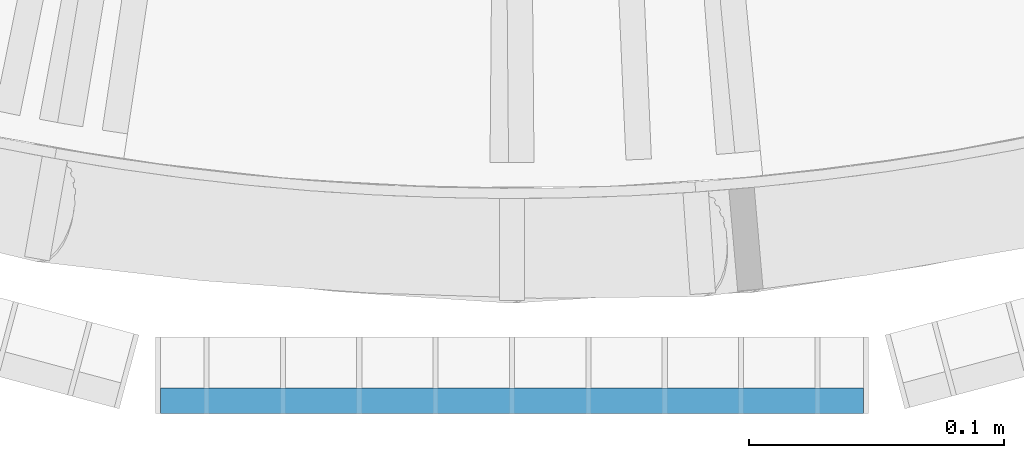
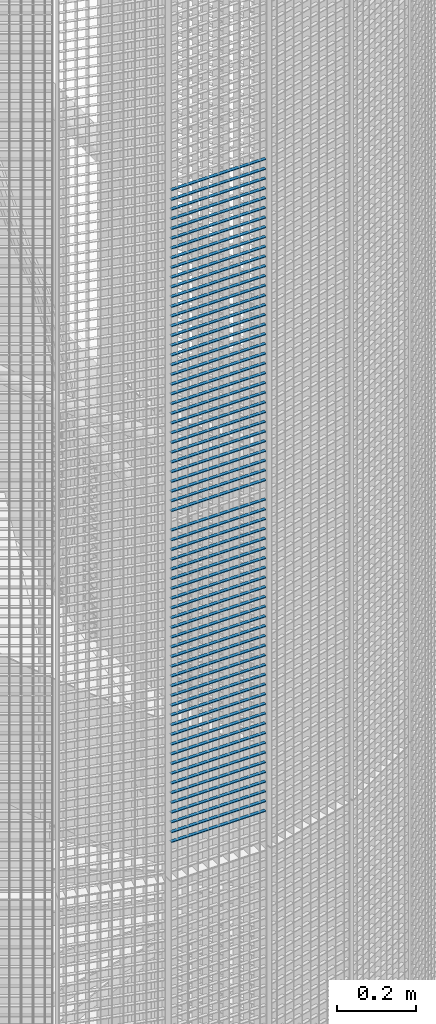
# One storey, part 391 of 1183: 67 beams, 1 element without a shape of its own.
"""IFC2X3 building model written with IfcOpenShell, lengths in millimetres."""

from ifc_helpers import new_model, si_unit, frame, origin_with_axes, origin_2d_with_axis, place, context, subcontext, project, spatial, rectangle, extrude, material, type_object, element, aggregate, save


model = new_model("IFC2X3")

# Units and contexts
model_context = context("Model", 3, precision=1e-05, world=origin_with_axes())
body_context = subcontext(model_context, "Body", "Model", "MODEL_VIEW")
ifc_project = project(units=[si_unit("LENGTHUNIT", "METRE", prefix="MILLI"), si_unit("AREAUNIT", "SQUARE_METRE"), si_unit("VOLUMEUNIT", "CUBIC_METRE"), si_unit("MASSUNIT", "GRAM", prefix="KILO"), si_unit("TIMEUNIT", "SECOND"), si_unit("PLANEANGLEUNIT", "RADIAN"), si_unit("SOLIDANGLEUNIT", "STERADIAN"), si_unit("THERMODYNAMICTEMPERATUREUNIT", "DEGREE_CELSIUS"), si_unit("LUMINOUSINTENSITYUNIT", "LUMEN")], contexts=[model_context])

# Site, building, storey
site_placement = place(None, origin_with_axes())
site = spatial("IfcSite", under=ifc_project, at=site_placement, Name="Undefined", CompositionType="ELEMENT")
building_placement = place(site_placement, origin_with_axes())
building = spatial("IfcBuilding", under=site, at=building_placement, Name="Undefined", CompositionType="ELEMENT")
storey_placement = place(building_placement, origin_with_axes())
storey = spatial("IfcBuildingStorey", under=building, at=storey_placement, Name="Undefined", CompositionType="ELEMENT", Elevation=0.0)

# Assembly, beams
assembly_placement = place(storey_placement, origin_with_axes())
assembly = element("IfcElementAssembly", 1, at=assembly_placement, inside=storey, Name="BORDURE", AssemblyPlace="NOTDEFINED", PredefinedType="NOTDEFINED")
ifc_material = material(Name="STEEL/S235JR")
beam_type = type_object("IfcBeamType", Name="PL2*10", PredefinedType="NOTDEFINED")
beam_1_placement = place(assembly_placement, frame((21737.9960033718, -1113.47999999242, 17130.0), z_axis=(0.0, -1.0, 0.0), x_axis=(-1.0, 0.0, 0.0)))
beam_1 = element("IfcBeam", 2, at=beam_1_placement, type_object=beam_type, material=ifc_material, Name="ENTRETOISE", context=body_context, shape_type="SweptSolid", body=[
    extrude(rectangle(XDim=2.0, YDim=10.0, at=origin_2d_with_axis()), frame((275.999999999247, 9.09494701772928e-13, 1.53210777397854e-14), z_axis=(-1.0, 0.0, 0.0), x_axis=(0.0, -1.0, 0.0)), (0.0, 0.0, 1.0), 276.0),
])
beam_2_placement = place(assembly_placement, frame((21737.9960033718, -1113.47999999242, 17100.0), z_axis=(0.0, -1.0, 0.0), x_axis=(-1.0, 0.0, 0.0)))
beam_2 = element("IfcBeam", 3, at=beam_2_placement, type_object=beam_type, material=ifc_material, Name="ENTRETOISE", context=body_context, shape_type="SweptSolid", body=[
    extrude(rectangle(XDim=2.0, YDim=10.0, at=origin_2d_with_axis()), frame((275.999999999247, 9.09494701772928e-13, 1.53210777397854e-14), z_axis=(-1.0, 0.0, 0.0), x_axis=(0.0, -1.0, 0.0)), (0.0, 0.0, 1.0), 276.0),
])
beam_3_placement = place(assembly_placement, frame((21737.9960033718, -1113.47999999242, 17070.0), z_axis=(0.0, -1.0, 0.0), x_axis=(-1.0, 0.0, 0.0)))
beam_3 = element("IfcBeam", 4, at=beam_3_placement, type_object=beam_type, material=ifc_material, Name="ENTRETOISE", context=body_context, shape_type="SweptSolid", body=[
    extrude(rectangle(XDim=2.0, YDim=10.0, at=origin_2d_with_axis()), frame((275.999999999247, 9.09494701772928e-13, 1.53210777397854e-14), z_axis=(-1.0, 0.0, 0.0), x_axis=(0.0, -1.0, 0.0)), (0.0, 0.0, 1.0), 276.0),
])
beam_4_placement = place(assembly_placement, frame((21737.9960033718, -1113.47999999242, 17040.0), z_axis=(0.0, -1.0, 0.0), x_axis=(-1.0, 0.0, 0.0)))
beam_4 = element("IfcBeam", 5, at=beam_4_placement, type_object=beam_type, material=ifc_material, Name="ENTRETOISE", context=body_context, shape_type="SweptSolid", body=[
    extrude(rectangle(XDim=2.0, YDim=10.0, at=origin_2d_with_axis()), frame((275.999999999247, 9.09494701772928e-13, 1.53210777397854e-14), z_axis=(-1.0, 0.0, 0.0), x_axis=(0.0, -1.0, 0.0)), (0.0, 0.0, 1.0), 276.0),
])
beam_5_placement = place(assembly_placement, frame((21737.9960033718, -1113.47999999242, 17010.0), z_axis=(0.0, -1.0, 0.0), x_axis=(-1.0, 0.0, 0.0)))
beam_5 = element("IfcBeam", 6, at=beam_5_placement, type_object=beam_type, material=ifc_material, Name="ENTRETOISE", context=body_context, shape_type="SweptSolid", body=[
    extrude(rectangle(XDim=2.0, YDim=10.0, at=origin_2d_with_axis()), frame((275.999999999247, 9.09494701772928e-13, 1.53210777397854e-14), z_axis=(-1.0, 0.0, 0.0), x_axis=(0.0, -1.0, 0.0)), (0.0, 0.0, 1.0), 276.0),
])
beam_6_placement = place(assembly_placement, frame((21737.9960033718, -1113.47999999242, 16980.0), z_axis=(0.0, -1.0, 0.0), x_axis=(-1.0, 0.0, 0.0)))
beam_6 = element("IfcBeam", 7, at=beam_6_placement, type_object=beam_type, material=ifc_material, Name="ENTRETOISE", context=body_context, shape_type="SweptSolid", body=[
    extrude(rectangle(XDim=2.0, YDim=10.0, at=origin_2d_with_axis()), frame((275.999999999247, 9.09494701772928e-13, 1.53210777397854e-14), z_axis=(-1.0, 0.0, 0.0), x_axis=(0.0, -1.0, 0.0)), (0.0, 0.0, 1.0), 276.0),
])
beam_7_placement = place(assembly_placement, frame((21737.9960033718, -1113.47999999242, 16950.0), z_axis=(0.0, -1.0, 0.0), x_axis=(-1.0, 0.0, 0.0)))
beam_7 = element("IfcBeam", 8, at=beam_7_placement, type_object=beam_type, material=ifc_material, Name="ENTRETOISE", context=body_context, shape_type="SweptSolid", body=[
    extrude(rectangle(XDim=2.0, YDim=10.0, at=origin_2d_with_axis()), frame((275.999999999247, 9.09494701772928e-13, 1.53210777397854e-14), z_axis=(-1.0, 0.0, 0.0), x_axis=(0.0, -1.0, 0.0)), (0.0, 0.0, 1.0), 276.0),
])
beam_8_placement = place(assembly_placement, frame((21737.9960033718, -1113.47999999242, 16920.0), z_axis=(0.0, -1.0, 0.0), x_axis=(-1.0, 0.0, 0.0)))
beam_8 = element("IfcBeam", 9, at=beam_8_placement, type_object=beam_type, material=ifc_material, Name="ENTRETOISE", context=body_context, shape_type="SweptSolid", body=[
    extrude(rectangle(XDim=2.0, YDim=10.0, at=origin_2d_with_axis()), frame((275.999999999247, 9.09494701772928e-13, 1.53210777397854e-14), z_axis=(-1.0, 0.0, 0.0), x_axis=(0.0, -1.0, 0.0)), (0.0, 0.0, 1.0), 276.0),
])
beam_9_placement = place(assembly_placement, frame((21737.9960033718, -1113.47999999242, 16890.0), z_axis=(0.0, -1.0, 0.0), x_axis=(-1.0, 0.0, 0.0)))
beam_9 = element("IfcBeam", 10, at=beam_9_placement, type_object=beam_type, material=ifc_material, Name="ENTRETOISE", context=body_context, shape_type="SweptSolid", body=[
    extrude(rectangle(XDim=2.0, YDim=10.0, at=origin_2d_with_axis()), frame((275.999999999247, 9.09494701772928e-13, 1.53210777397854e-14), z_axis=(-1.0, 0.0, 0.0), x_axis=(0.0, -1.0, 0.0)), (0.0, 0.0, 1.0), 276.0),
])
beam_10_placement = place(assembly_placement, frame((21737.9960033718, -1113.47999999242, 16860.0), z_axis=(0.0, -1.0, 0.0), x_axis=(-1.0, 0.0, 0.0)))
beam_10 = element("IfcBeam", 11, at=beam_10_placement, type_object=beam_type, material=ifc_material, Name="ENTRETOISE", context=body_context, shape_type="SweptSolid", body=[
    extrude(rectangle(XDim=2.0, YDim=10.0, at=origin_2d_with_axis()), frame((275.999999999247, 9.09494701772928e-13, 1.53210777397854e-14), z_axis=(-1.0, 0.0, 0.0), x_axis=(0.0, -1.0, 0.0)), (0.0, 0.0, 1.0), 276.0),
])
beam_11_placement = place(assembly_placement, frame((21737.9960033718, -1113.47999999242, 16830.0), z_axis=(0.0, -1.0, 0.0), x_axis=(-1.0, 0.0, 0.0)))
beam_11 = element("IfcBeam", 12, at=beam_11_placement, type_object=beam_type, material=ifc_material, Name="ENTRETOISE", context=body_context, shape_type="SweptSolid", body=[
    extrude(rectangle(XDim=2.0, YDim=10.0, at=origin_2d_with_axis()), frame((275.999999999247, 9.09494701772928e-13, 1.53210777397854e-14), z_axis=(-1.0, 0.0, 0.0), x_axis=(0.0, -1.0, 0.0)), (0.0, 0.0, 1.0), 276.0),
])
beam_12_placement = place(assembly_placement, frame((21737.9960033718, -1113.47999999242, 16800.0), z_axis=(0.0, -1.0, 0.0), x_axis=(-1.0, 0.0, 0.0)))
beam_12 = element("IfcBeam", 13, at=beam_12_placement, type_object=beam_type, material=ifc_material, Name="ENTRETOISE", context=body_context, shape_type="SweptSolid", body=[
    extrude(rectangle(XDim=2.0, YDim=10.0, at=origin_2d_with_axis()), frame((275.999999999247, 9.09494701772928e-13, 1.53210777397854e-14), z_axis=(-1.0, 0.0, 0.0), x_axis=(0.0, -1.0, 0.0)), (0.0, 0.0, 1.0), 276.0),
])
beam_13_placement = place(assembly_placement, frame((21737.9960033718, -1113.47999999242, 16770.0), z_axis=(0.0, -1.0, 0.0), x_axis=(-1.0, 0.0, 0.0)))
beam_13 = element("IfcBeam", 14, at=beam_13_placement, type_object=beam_type, material=ifc_material, Name="ENTRETOISE", context=body_context, shape_type="SweptSolid", body=[
    extrude(rectangle(XDim=2.0, YDim=10.0, at=origin_2d_with_axis()), frame((275.999999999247, 9.09494701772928e-13, 1.53210777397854e-14), z_axis=(-1.0, 0.0, 0.0), x_axis=(0.0, -1.0, 0.0)), (0.0, 0.0, 1.0), 276.0),
])
beam_14_placement = place(assembly_placement, frame((21737.9960033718, -1113.47999999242, 16740.0), z_axis=(0.0, -1.0, 0.0), x_axis=(-1.0, 0.0, 0.0)))
beam_14 = element("IfcBeam", 15, at=beam_14_placement, type_object=beam_type, material=ifc_material, Name="ENTRETOISE", context=body_context, shape_type="SweptSolid", body=[
    extrude(rectangle(XDim=2.0, YDim=10.0, at=origin_2d_with_axis()), frame((275.999999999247, 9.09494701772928e-13, 1.53210777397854e-14), z_axis=(-1.0, 0.0, 0.0), x_axis=(0.0, -1.0, 0.0)), (0.0, 0.0, 1.0), 276.0),
])
beam_15_placement = place(assembly_placement, frame((21737.9960033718, -1113.47999999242, 16710.0), z_axis=(0.0, -1.0, 0.0), x_axis=(-1.0, 0.0, 0.0)))
beam_15 = element("IfcBeam", 16, at=beam_15_placement, type_object=beam_type, material=ifc_material, Name="ENTRETOISE", context=body_context, shape_type="SweptSolid", body=[
    extrude(rectangle(XDim=2.0, YDim=10.0, at=origin_2d_with_axis()), frame((275.999999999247, 9.09494701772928e-13, 1.53210777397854e-14), z_axis=(-1.0, 0.0, 0.0), x_axis=(0.0, -1.0, 0.0)), (0.0, 0.0, 1.0), 276.0),
])
beam_16_placement = place(assembly_placement, frame((21737.9960033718, -1113.47999999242, 16680.0), z_axis=(0.0, -1.0, 0.0), x_axis=(-1.0, 0.0, 0.0)))
beam_16 = element("IfcBeam", 17, at=beam_16_placement, type_object=beam_type, material=ifc_material, Name="ENTRETOISE", context=body_context, shape_type="SweptSolid", body=[
    extrude(rectangle(XDim=2.0, YDim=10.0, at=origin_2d_with_axis()), frame((275.999999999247, 9.09494701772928e-13, 1.53210777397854e-14), z_axis=(-1.0, 0.0, 0.0), x_axis=(0.0, -1.0, 0.0)), (0.0, 0.0, 1.0), 276.0),
])
beam_17_placement = place(assembly_placement, frame((21737.9960033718, -1113.47999999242, 16650.0), z_axis=(0.0, -1.0, 0.0), x_axis=(-1.0, 0.0, 0.0)))
beam_17 = element("IfcBeam", 18, at=beam_17_placement, type_object=beam_type, material=ifc_material, Name="ENTRETOISE", context=body_context, shape_type="SweptSolid", body=[
    extrude(rectangle(XDim=2.0, YDim=10.0, at=origin_2d_with_axis()), frame((275.999999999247, 9.09494701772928e-13, 1.53210777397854e-14), z_axis=(-1.0, 0.0, 0.0), x_axis=(0.0, -1.0, 0.0)), (0.0, 0.0, 1.0), 276.0),
])
beam_18_placement = place(assembly_placement, frame((21737.9960033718, -1113.47999999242, 16620.0), z_axis=(0.0, -1.0, 0.0), x_axis=(-1.0, 0.0, 0.0)))
beam_18 = element("IfcBeam", 19, at=beam_18_placement, type_object=beam_type, material=ifc_material, Name="ENTRETOISE", context=body_context, shape_type="SweptSolid", body=[
    extrude(rectangle(XDim=2.0, YDim=10.0, at=origin_2d_with_axis()), frame((275.999999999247, 9.09494701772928e-13, 1.53210777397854e-14), z_axis=(-1.0, 0.0, 0.0), x_axis=(0.0, -1.0, 0.0)), (0.0, 0.0, 1.0), 276.0),
])
beam_19_placement = place(assembly_placement, frame((21737.9960033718, -1113.47999999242, 16590.0), z_axis=(0.0, -1.0, 0.0), x_axis=(-1.0, 0.0, 0.0)))
beam_19 = element("IfcBeam", 20, at=beam_19_placement, type_object=beam_type, material=ifc_material, Name="ENTRETOISE", context=body_context, shape_type="SweptSolid", body=[
    extrude(rectangle(XDim=2.0, YDim=10.0, at=origin_2d_with_axis()), frame((275.999999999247, 9.09494701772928e-13, 1.53210777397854e-14), z_axis=(-1.0, 0.0, 0.0), x_axis=(0.0, -1.0, 0.0)), (0.0, 0.0, 1.0), 276.0),
])
beam_20_placement = place(assembly_placement, frame((21737.9960033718, -1113.47999999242, 16560.0), z_axis=(0.0, -1.0, 0.0), x_axis=(-1.0, 0.0, 0.0)))
beam_20 = element("IfcBeam", 21, at=beam_20_placement, type_object=beam_type, material=ifc_material, Name="ENTRETOISE", context=body_context, shape_type="SweptSolid", body=[
    extrude(rectangle(XDim=2.0, YDim=10.0, at=origin_2d_with_axis()), frame((275.999999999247, 9.09494701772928e-13, 1.53210777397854e-14), z_axis=(-1.0, 0.0, 0.0), x_axis=(0.0, -1.0, 0.0)), (0.0, 0.0, 1.0), 276.0),
])
beam_21_placement = place(assembly_placement, frame((21737.9960033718, -1113.47999999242, 16530.0), z_axis=(0.0, -1.0, 0.0), x_axis=(-1.0, 0.0, 0.0)))
beam_21 = element("IfcBeam", 22, at=beam_21_placement, type_object=beam_type, material=ifc_material, Name="ENTRETOISE", context=body_context, shape_type="SweptSolid", body=[
    extrude(rectangle(XDim=2.0, YDim=10.0, at=origin_2d_with_axis()), frame((275.999999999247, 9.09494701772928e-13, 1.53210777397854e-14), z_axis=(-1.0, 0.0, 0.0), x_axis=(0.0, -1.0, 0.0)), (0.0, 0.0, 1.0), 276.0),
])
beam_22_placement = place(assembly_placement, frame((21737.9960033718, -1113.47999999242, 16500.0), z_axis=(0.0, -1.0, 0.0), x_axis=(-1.0, 0.0, 0.0)))
beam_22 = element("IfcBeam", 23, at=beam_22_placement, type_object=beam_type, material=ifc_material, Name="ENTRETOISE", context=body_context, shape_type="SweptSolid", body=[
    extrude(rectangle(XDim=2.0, YDim=10.0, at=origin_2d_with_axis()), frame((275.999999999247, 9.09494701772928e-13, 1.53210777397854e-14), z_axis=(-1.0, 0.0, 0.0), x_axis=(0.0, -1.0, 0.0)), (0.0, 0.0, 1.0), 276.0),
])
beam_23_placement = place(assembly_placement, frame((21737.9960033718, -1113.47999999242, 16470.0), z_axis=(0.0, -1.0, 0.0), x_axis=(-1.0, 0.0, 0.0)))
beam_23 = element("IfcBeam", 24, at=beam_23_placement, type_object=beam_type, material=ifc_material, Name="ENTRETOISE", context=body_context, shape_type="SweptSolid", body=[
    extrude(rectangle(XDim=2.0, YDim=10.0, at=origin_2d_with_axis()), frame((275.999999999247, 9.09494701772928e-13, 1.53210777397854e-14), z_axis=(-1.0, 0.0, 0.0), x_axis=(0.0, -1.0, 0.0)), (0.0, 0.0, 1.0), 276.0),
])
beam_24_placement = place(assembly_placement, frame((21737.9960033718, -1113.47999999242, 16440.0), z_axis=(0.0, -1.0, 0.0), x_axis=(-1.0, 0.0, 0.0)))
beam_24 = element("IfcBeam", 25, at=beam_24_placement, type_object=beam_type, material=ifc_material, Name="ENTRETOISE", context=body_context, shape_type="SweptSolid", body=[
    extrude(rectangle(XDim=2.0, YDim=10.0, at=origin_2d_with_axis()), frame((275.999999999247, 9.09494701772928e-13, 1.53210777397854e-14), z_axis=(-1.0, 0.0, 0.0), x_axis=(0.0, -1.0, 0.0)), (0.0, 0.0, 1.0), 276.0),
])
beam_25_placement = place(assembly_placement, frame((21737.9960033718, -1113.47999999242, 16410.0), z_axis=(0.0, -1.0, 0.0), x_axis=(-1.0, 0.0, 0.0)))
beam_25 = element("IfcBeam", 26, at=beam_25_placement, type_object=beam_type, material=ifc_material, Name="ENTRETOISE", context=body_context, shape_type="SweptSolid", body=[
    extrude(rectangle(XDim=2.0, YDim=10.0, at=origin_2d_with_axis()), frame((275.999999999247, 9.09494701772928e-13, 1.53210777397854e-14), z_axis=(-1.0, 0.0, 0.0), x_axis=(0.0, -1.0, 0.0)), (0.0, 0.0, 1.0), 276.0),
])
beam_26_placement = place(assembly_placement, frame((21737.9960033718, -1113.47999999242, 16380.0), z_axis=(0.0, -1.0, 0.0), x_axis=(-1.0, 0.0, 0.0)))
beam_26 = element("IfcBeam", 27, at=beam_26_placement, type_object=beam_type, material=ifc_material, Name="ENTRETOISE", context=body_context, shape_type="SweptSolid", body=[
    extrude(rectangle(XDim=2.0, YDim=10.0, at=origin_2d_with_axis()), frame((275.999999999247, 9.09494701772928e-13, 1.53210777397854e-14), z_axis=(-1.0, 0.0, 0.0), x_axis=(0.0, -1.0, 0.0)), (0.0, 0.0, 1.0), 276.0),
])
beam_27_placement = place(assembly_placement, frame((21737.9960033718, -1113.47999999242, 16350.0), z_axis=(0.0, -1.0, 0.0), x_axis=(-1.0, 0.0, 0.0)))
beam_27 = element("IfcBeam", 28, at=beam_27_placement, type_object=beam_type, material=ifc_material, Name="ENTRETOISE", context=body_context, shape_type="SweptSolid", body=[
    extrude(rectangle(XDim=2.0, YDim=10.0, at=origin_2d_with_axis()), frame((275.999999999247, 9.09494701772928e-13, 1.53210777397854e-14), z_axis=(-1.0, 0.0, 0.0), x_axis=(0.0, -1.0, 0.0)), (0.0, 0.0, 1.0), 276.0),
])
beam_28_placement = place(assembly_placement, frame((21737.9960033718, -1113.47999999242, 16320.0), z_axis=(0.0, -1.0, 0.0), x_axis=(-1.0, 0.0, 0.0)))
beam_28 = element("IfcBeam", 29, at=beam_28_placement, type_object=beam_type, material=ifc_material, Name="ENTRETOISE", context=body_context, shape_type="SweptSolid", body=[
    extrude(rectangle(XDim=2.0, YDim=10.0, at=origin_2d_with_axis()), frame((275.999999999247, 9.09494701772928e-13, 1.53210777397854e-14), z_axis=(-1.0, 0.0, 0.0), x_axis=(0.0, -1.0, 0.0)), (0.0, 0.0, 1.0), 276.0),
])
beam_29_placement = place(assembly_placement, frame((21737.9960033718, -1113.47999999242, 16290.0), z_axis=(0.0, -1.0, 0.0), x_axis=(-1.0, 0.0, 0.0)))
beam_29 = element("IfcBeam", 30, at=beam_29_placement, type_object=beam_type, material=ifc_material, Name="ENTRETOISE", context=body_context, shape_type="SweptSolid", body=[
    extrude(rectangle(XDim=2.0, YDim=10.0, at=origin_2d_with_axis()), frame((275.999999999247, 9.09494701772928e-13, 1.53210777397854e-14), z_axis=(-1.0, 0.0, 0.0), x_axis=(0.0, -1.0, 0.0)), (0.0, 0.0, 1.0), 276.0),
])
beam_30_placement = place(assembly_placement, frame((21737.9960033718, -1113.47999999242, 16260.0), z_axis=(0.0, -1.0, 0.0), x_axis=(-1.0, 0.0, 0.0)))
beam_30 = element("IfcBeam", 31, at=beam_30_placement, type_object=beam_type, material=ifc_material, Name="ENTRETOISE", context=body_context, shape_type="SweptSolid", body=[
    extrude(rectangle(XDim=2.0, YDim=10.0, at=origin_2d_with_axis()), frame((275.999999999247, 9.09494701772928e-13, 1.53210777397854e-14), z_axis=(-1.0, 0.0, 0.0), x_axis=(0.0, -1.0, 0.0)), (0.0, 0.0, 1.0), 276.0),
])
beam_31_placement = place(assembly_placement, frame((21737.9960033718, -1113.47999999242, 16230.0), z_axis=(0.0, -1.0, 0.0), x_axis=(-1.0, 0.0, 0.0)))
beam_31 = element("IfcBeam", 32, at=beam_31_placement, type_object=beam_type, material=ifc_material, Name="ENTRETOISE", context=body_context, shape_type="SweptSolid", body=[
    extrude(rectangle(XDim=2.0, YDim=10.0, at=origin_2d_with_axis()), frame((275.999999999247, 9.09494701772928e-13, 1.53210777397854e-14), z_axis=(-1.0, 0.0, 0.0), x_axis=(0.0, -1.0, 0.0)), (0.0, 0.0, 1.0), 276.0),
])
beam_32_placement = place(assembly_placement, frame((21737.9960033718, -1113.47999999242, 16200.0), z_axis=(0.0, -1.0, 0.0), x_axis=(-1.0, 0.0, 0.0)))
beam_32 = element("IfcBeam", 33, at=beam_32_placement, type_object=beam_type, material=ifc_material, Name="ENTRETOISE", context=body_context, shape_type="SweptSolid", body=[
    extrude(rectangle(XDim=2.0, YDim=10.0, at=origin_2d_with_axis()), frame((275.999999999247, 9.09494701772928e-13, 1.53210777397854e-14), z_axis=(-1.0, 0.0, 0.0), x_axis=(0.0, -1.0, 0.0)), (0.0, 0.0, 1.0), 276.0),
])
beam_33_placement = place(assembly_placement, frame((21737.9960033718, -1113.47999999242, 16170.0), z_axis=(0.0, -1.0, 0.0), x_axis=(-1.0, 0.0, 0.0)))
beam_33 = element("IfcBeam", 34, at=beam_33_placement, type_object=beam_type, material=ifc_material, Name="ENTRETOISE", context=body_context, shape_type="SweptSolid", body=[
    extrude(rectangle(XDim=2.0, YDim=10.0, at=origin_2d_with_axis()), frame((275.999999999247, 9.09494701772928e-13, 1.53210777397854e-14), z_axis=(-1.0, 0.0, 0.0), x_axis=(0.0, -1.0, 0.0)), (0.0, 0.0, 1.0), 276.0),
])
beam_34_placement = place(assembly_placement, frame((21737.9960033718, -1113.47999999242, 16140.0), z_axis=(0.0, -1.0, 0.0), x_axis=(-1.0, 0.0, 0.0)))
beam_34 = element("IfcBeam", 35, at=beam_34_placement, type_object=beam_type, material=ifc_material, Name="ENTRETOISE", context=body_context, shape_type="SweptSolid", body=[
    extrude(rectangle(XDim=2.0, YDim=10.0, at=origin_2d_with_axis()), frame((275.999999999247, 9.09494701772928e-13, 1.53210777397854e-14), z_axis=(-1.0, 0.0, 0.0), x_axis=(0.0, -1.0, 0.0)), (0.0, 0.0, 1.0), 276.0),
])
beam_35_placement = place(assembly_placement, frame((21737.9960033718, -1113.47999999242, 15720.0), z_axis=(0.0, -1.0, 0.0), x_axis=(-1.0, 0.0, 0.0)))
beam_35 = element("IfcBeam", 36, at=beam_35_placement, type_object=beam_type, material=ifc_material, Name="ENTRETOISE", context=body_context, shape_type="SweptSolid", body=[
    extrude(rectangle(XDim=2.0, YDim=10.0, at=origin_2d_with_axis()), frame((275.999999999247, 9.09494701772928e-13, 1.53210777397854e-14), z_axis=(-1.0, 0.0, 0.0), x_axis=(0.0, -1.0, 0.0)), (0.0, 0.0, 1.0), 276.0),
])
beam_36_placement = place(assembly_placement, frame((21737.9960033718, -1113.47999999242, 15690.0), z_axis=(0.0, -1.0, 0.0), x_axis=(-1.0, 0.0, 0.0)))
beam_36 = element("IfcBeam", 37, at=beam_36_placement, type_object=beam_type, material=ifc_material, Name="ENTRETOISE", context=body_context, shape_type="SweptSolid", body=[
    extrude(rectangle(XDim=2.0, YDim=10.0, at=origin_2d_with_axis()), frame((275.999999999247, 9.09494701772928e-13, 1.53210777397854e-14), z_axis=(-1.0, 0.0, 0.0), x_axis=(0.0, -1.0, 0.0)), (0.0, 0.0, 1.0), 276.0),
])
beam_37_placement = place(assembly_placement, frame((21737.9960033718, -1113.47999999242, 15750.0), z_axis=(0.0, -1.0, 0.0), x_axis=(-1.0, 0.0, 0.0)))
beam_37 = element("IfcBeam", 38, at=beam_37_placement, type_object=beam_type, material=ifc_material, Name="ENTRETOISE", context=body_context, shape_type="SweptSolid", body=[
    extrude(rectangle(XDim=2.0, YDim=10.0, at=origin_2d_with_axis()), frame((275.999999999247, 9.09494701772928e-13, 1.53210777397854e-14), z_axis=(-1.0, 0.0, 0.0), x_axis=(0.0, -1.0, 0.0)), (0.0, 0.0, 1.0), 276.0),
])
beam_38_placement = place(assembly_placement, frame((21737.9960033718, -1113.47999999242, 15660.0), z_axis=(0.0, -1.0, 0.0), x_axis=(-1.0, 0.0, 0.0)))
beam_38 = element("IfcBeam", 39, at=beam_38_placement, type_object=beam_type, material=ifc_material, Name="ENTRETOISE", context=body_context, shape_type="SweptSolid", body=[
    extrude(rectangle(XDim=2.0, YDim=10.0, at=origin_2d_with_axis()), frame((275.999999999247, 9.09494701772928e-13, 1.53210777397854e-14), z_axis=(-1.0, 0.0, 0.0), x_axis=(0.0, -1.0, 0.0)), (0.0, 0.0, 1.0), 276.0),
])
beam_39_placement = place(assembly_placement, frame((21737.9960033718, -1113.47999999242, 15630.0), z_axis=(0.0, -1.0, 0.0), x_axis=(-1.0, 0.0, 0.0)))
beam_39 = element("IfcBeam", 40, at=beam_39_placement, type_object=beam_type, material=ifc_material, Name="ENTRETOISE", context=body_context, shape_type="SweptSolid", body=[
    extrude(rectangle(XDim=2.0, YDim=10.0, at=origin_2d_with_axis()), frame((275.999999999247, 9.09494701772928e-13, 1.53210777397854e-14), z_axis=(-1.0, 0.0, 0.0), x_axis=(0.0, -1.0, 0.0)), (0.0, 0.0, 1.0), 276.0),
])
beam_40_placement = place(assembly_placement, frame((21737.9960033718, -1113.47999999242, 15780.0), z_axis=(0.0, -1.0, 0.0), x_axis=(-1.0, 0.0, 0.0)))
beam_40 = element("IfcBeam", 41, at=beam_40_placement, type_object=beam_type, material=ifc_material, Name="ENTRETOISE", context=body_context, shape_type="SweptSolid", body=[
    extrude(rectangle(XDim=2.0, YDim=10.0, at=origin_2d_with_axis()), frame((275.999999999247, 9.09494701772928e-13, 1.53210777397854e-14), z_axis=(-1.0, 0.0, 0.0), x_axis=(0.0, -1.0, 0.0)), (0.0, 0.0, 1.0), 276.0),
])
beam_41_placement = place(assembly_placement, frame((21737.9960033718, -1113.47999999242, 15600.0), z_axis=(0.0, -1.0, 0.0), x_axis=(-1.0, 0.0, 0.0)))
beam_41 = element("IfcBeam", 42, at=beam_41_placement, type_object=beam_type, material=ifc_material, Name="ENTRETOISE", context=body_context, shape_type="SweptSolid", body=[
    extrude(rectangle(XDim=2.0, YDim=10.0, at=origin_2d_with_axis()), frame((275.999999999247, 9.09494701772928e-13, 1.53210777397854e-14), z_axis=(-1.0, 0.0, 0.0), x_axis=(0.0, -1.0, 0.0)), (0.0, 0.0, 1.0), 276.0),
])
beam_42_placement = place(assembly_placement, frame((21737.9960033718, -1113.47999999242, 15810.0), z_axis=(0.0, -1.0, 0.0), x_axis=(-1.0, 0.0, 0.0)))
beam_42 = element("IfcBeam", 43, at=beam_42_placement, type_object=beam_type, material=ifc_material, Name="ENTRETOISE", context=body_context, shape_type="SweptSolid", body=[
    extrude(rectangle(XDim=2.0, YDim=10.0, at=origin_2d_with_axis()), frame((275.999999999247, 9.09494701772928e-13, 1.53210777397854e-14), z_axis=(-1.0, 0.0, 0.0), x_axis=(0.0, -1.0, 0.0)), (0.0, 0.0, 1.0), 276.0),
])
beam_43_placement = place(assembly_placement, frame((21737.9960033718, -1113.47999999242, 15570.0), z_axis=(0.0, -1.0, 0.0), x_axis=(-1.0, 0.0, 0.0)))
beam_43 = element("IfcBeam", 44, at=beam_43_placement, type_object=beam_type, material=ifc_material, Name="ENTRETOISE", context=body_context, shape_type="SweptSolid", body=[
    extrude(rectangle(XDim=2.0, YDim=10.0, at=origin_2d_with_axis()), frame((275.999999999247, 9.09494701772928e-13, 1.53210777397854e-14), z_axis=(-1.0, 0.0, 0.0), x_axis=(0.0, -1.0, 0.0)), (0.0, 0.0, 1.0), 276.0),
])
beam_44_placement = place(assembly_placement, frame((21737.9960033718, -1113.47999999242, 15540.0), z_axis=(0.0, -1.0, 0.0), x_axis=(-1.0, 0.0, 0.0)))
beam_44 = element("IfcBeam", 45, at=beam_44_placement, type_object=beam_type, material=ifc_material, Name="ENTRETOISE", context=body_context, shape_type="SweptSolid", body=[
    extrude(rectangle(XDim=2.0, YDim=10.0, at=origin_2d_with_axis()), frame((275.999999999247, 9.09494701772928e-13, 1.53210777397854e-14), z_axis=(-1.0, 0.0, 0.0), x_axis=(0.0, -1.0, 0.0)), (0.0, 0.0, 1.0), 276.0),
])
beam_45_placement = place(assembly_placement, frame((21737.9960033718, -1113.47999999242, 15840.0), z_axis=(0.0, -1.0, 0.0), x_axis=(-1.0, 0.0, 0.0)))
beam_45 = element("IfcBeam", 46, at=beam_45_placement, type_object=beam_type, material=ifc_material, Name="ENTRETOISE", context=body_context, shape_type="SweptSolid", body=[
    extrude(rectangle(XDim=2.0, YDim=10.0, at=origin_2d_with_axis()), frame((275.999999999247, 9.09494701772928e-13, 1.53210777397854e-14), z_axis=(-1.0, 0.0, 0.0), x_axis=(0.0, -1.0, 0.0)), (0.0, 0.0, 1.0), 276.0),
])
beam_46_placement = place(assembly_placement, frame((21737.9960033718, -1113.47999999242, 15510.0), z_axis=(0.0, -1.0, 0.0), x_axis=(-1.0, 0.0, 0.0)))
beam_46 = element("IfcBeam", 47, at=beam_46_placement, type_object=beam_type, material=ifc_material, Name="ENTRETOISE", context=body_context, shape_type="SweptSolid", body=[
    extrude(rectangle(XDim=2.0, YDim=10.0, at=origin_2d_with_axis()), frame((275.999999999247, 9.09494701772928e-13, 1.53210777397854e-14), z_axis=(-1.0, 0.0, 0.0), x_axis=(0.0, -1.0, 0.0)), (0.0, 0.0, 1.0), 276.0),
])
beam_47_placement = place(assembly_placement, frame((21737.9960033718, -1113.47999999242, 15480.0), z_axis=(0.0, -1.0, 0.0), x_axis=(-1.0, 0.0, 0.0)))
beam_47 = element("IfcBeam", 48, at=beam_47_placement, type_object=beam_type, material=ifc_material, Name="ENTRETOISE", context=body_context, shape_type="SweptSolid", body=[
    extrude(rectangle(XDim=2.0, YDim=10.0, at=origin_2d_with_axis()), frame((275.999999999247, 9.09494701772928e-13, 1.53210777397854e-14), z_axis=(-1.0, 0.0, 0.0), x_axis=(0.0, -1.0, 0.0)), (0.0, 0.0, 1.0), 276.0),
])
beam_48_placement = place(assembly_placement, frame((21737.9960033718, -1113.47999999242, 15870.0), z_axis=(0.0, -1.0, 0.0), x_axis=(-1.0, 0.0, 0.0)))
beam_48 = element("IfcBeam", 49, at=beam_48_placement, type_object=beam_type, material=ifc_material, Name="ENTRETOISE", context=body_context, shape_type="SweptSolid", body=[
    extrude(rectangle(XDim=2.0, YDim=10.0, at=origin_2d_with_axis()), frame((275.999999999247, 9.09494701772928e-13, 1.53210777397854e-14), z_axis=(-1.0, 0.0, 0.0), x_axis=(0.0, -1.0, 0.0)), (0.0, 0.0, 1.0), 276.0),
])
beam_49_placement = place(assembly_placement, frame((21737.9960033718, -1113.47999999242, 15450.0), z_axis=(0.0, -1.0, 0.0), x_axis=(-1.0, 0.0, 0.0)))
beam_49 = element("IfcBeam", 50, at=beam_49_placement, type_object=beam_type, material=ifc_material, Name="ENTRETOISE", context=body_context, shape_type="SweptSolid", body=[
    extrude(rectangle(XDim=2.0, YDim=10.0, at=origin_2d_with_axis()), frame((275.999999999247, 9.09494701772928e-13, 1.53210777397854e-14), z_axis=(-1.0, 0.0, 0.0), x_axis=(0.0, -1.0, 0.0)), (0.0, 0.0, 1.0), 276.0),
])
beam_50_placement = place(assembly_placement, frame((21737.9960033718, -1113.47999999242, 15420.0), z_axis=(0.0, -1.0, 0.0), x_axis=(-1.0, 0.0, 0.0)))
beam_50 = element("IfcBeam", 51, at=beam_50_placement, type_object=beam_type, material=ifc_material, Name="ENTRETOISE", context=body_context, shape_type="SweptSolid", body=[
    extrude(rectangle(XDim=2.0, YDim=10.0, at=origin_2d_with_axis()), frame((275.999999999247, 9.09494701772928e-13, 1.53210777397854e-14), z_axis=(-1.0, 0.0, 0.0), x_axis=(0.0, -1.0, 0.0)), (0.0, 0.0, 1.0), 276.0),
])
beam_51_placement = place(assembly_placement, frame((21737.9960033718, -1113.47999999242, 15900.0), z_axis=(0.0, -1.0, 0.0), x_axis=(-1.0, 0.0, 0.0)))
beam_51 = element("IfcBeam", 52, at=beam_51_placement, type_object=beam_type, material=ifc_material, Name="ENTRETOISE", context=body_context, shape_type="SweptSolid", body=[
    extrude(rectangle(XDim=2.0, YDim=10.0, at=origin_2d_with_axis()), frame((275.999999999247, 9.09494701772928e-13, 1.53210777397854e-14), z_axis=(-1.0, 0.0, 0.0), x_axis=(0.0, -1.0, 0.0)), (0.0, 0.0, 1.0), 276.0),
])
beam_52_placement = place(assembly_placement, frame((21737.9960033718, -1113.47999999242, 15390.0), z_axis=(0.0, -1.0, 0.0), x_axis=(-1.0, 0.0, 0.0)))
beam_52 = element("IfcBeam", 53, at=beam_52_placement, type_object=beam_type, material=ifc_material, Name="ENTRETOISE", context=body_context, shape_type="SweptSolid", body=[
    extrude(rectangle(XDim=2.0, YDim=10.0, at=origin_2d_with_axis()), frame((275.999999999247, 9.09494701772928e-13, 1.53210777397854e-14), z_axis=(-1.0, 0.0, 0.0), x_axis=(0.0, -1.0, 0.0)), (0.0, 0.0, 1.0), 276.0),
])
beam_53_placement = place(assembly_placement, frame((21737.9960033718, -1113.47999999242, 15930.0), z_axis=(0.0, -1.0, 0.0), x_axis=(-1.0, 0.0, 0.0)))
beam_53 = element("IfcBeam", 54, at=beam_53_placement, type_object=beam_type, material=ifc_material, Name="ENTRETOISE", context=body_context, shape_type="SweptSolid", body=[
    extrude(rectangle(XDim=2.0, YDim=10.0, at=origin_2d_with_axis()), frame((275.999999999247, 9.09494701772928e-13, 1.53210777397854e-14), z_axis=(-1.0, 0.0, 0.0), x_axis=(0.0, -1.0, 0.0)), (0.0, 0.0, 1.0), 276.0),
])
beam_54_placement = place(assembly_placement, frame((21737.9960033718, -1113.47999999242, 15360.0), z_axis=(0.0, -1.0, 0.0), x_axis=(-1.0, 0.0, 0.0)))
beam_54 = element("IfcBeam", 55, at=beam_54_placement, type_object=beam_type, material=ifc_material, Name="ENTRETOISE", context=body_context, shape_type="SweptSolid", body=[
    extrude(rectangle(XDim=2.0, YDim=10.0, at=origin_2d_with_axis()), frame((275.999999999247, 9.09494701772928e-13, 1.53210777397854e-14), z_axis=(-1.0, 0.0, 0.0), x_axis=(0.0, -1.0, 0.0)), (0.0, 0.0, 1.0), 276.0),
])
beam_55_placement = place(assembly_placement, frame((21737.9960033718, -1113.47999999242, 15330.0), z_axis=(0.0, -1.0, 0.0), x_axis=(-1.0, 0.0, 0.0)))
beam_55 = element("IfcBeam", 56, at=beam_55_placement, type_object=beam_type, material=ifc_material, Name="ENTRETOISE", context=body_context, shape_type="SweptSolid", body=[
    extrude(rectangle(XDim=2.0, YDim=10.0, at=origin_2d_with_axis()), frame((275.999999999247, 9.09494701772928e-13, 1.53210777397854e-14), z_axis=(-1.0, 0.0, 0.0), x_axis=(0.0, -1.0, 0.0)), (0.0, 0.0, 1.0), 276.0),
])
beam_56_placement = place(assembly_placement, frame((21737.9960033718, -1113.47999999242, 15960.0), z_axis=(0.0, -1.0, 0.0), x_axis=(-1.0, 0.0, 0.0)))
beam_56 = element("IfcBeam", 57, at=beam_56_placement, type_object=beam_type, material=ifc_material, Name="ENTRETOISE", context=body_context, shape_type="SweptSolid", body=[
    extrude(rectangle(XDim=2.0, YDim=10.0, at=origin_2d_with_axis()), frame((275.999999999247, 9.09494701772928e-13, 1.53210777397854e-14), z_axis=(-1.0, 0.0, 0.0), x_axis=(0.0, -1.0, 0.0)), (0.0, 0.0, 1.0), 276.0),
])
beam_57_placement = place(assembly_placement, frame((21737.9960033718, -1113.47999999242, 15300.0), z_axis=(0.0, -1.0, 0.0), x_axis=(-1.0, 0.0, 0.0)))
beam_57 = element("IfcBeam", 58, at=beam_57_placement, type_object=beam_type, material=ifc_material, Name="ENTRETOISE", context=body_context, shape_type="SweptSolid", body=[
    extrude(rectangle(XDim=2.0, YDim=10.0, at=origin_2d_with_axis()), frame((275.999999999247, 9.09494701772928e-13, 1.53210777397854e-14), z_axis=(-1.0, 0.0, 0.0), x_axis=(0.0, -1.0, 0.0)), (0.0, 0.0, 1.0), 276.0),
])
beam_58_placement = place(assembly_placement, frame((21737.9960033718, -1113.47999999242, 15270.0), z_axis=(0.0, -1.0, 0.0), x_axis=(-1.0, 0.0, 0.0)))
beam_58 = element("IfcBeam", 59, at=beam_58_placement, type_object=beam_type, material=ifc_material, Name="ENTRETOISE", context=body_context, shape_type="SweptSolid", body=[
    extrude(rectangle(XDim=2.0, YDim=10.0, at=origin_2d_with_axis()), frame((275.999999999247, 9.09494701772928e-13, 1.53210777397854e-14), z_axis=(-1.0, 0.0, 0.0), x_axis=(0.0, -1.0, 0.0)), (0.0, 0.0, 1.0), 276.0),
])
beam_59_placement = place(assembly_placement, frame((21737.9960033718, -1113.47999999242, 15990.0), z_axis=(0.0, -1.0, 0.0), x_axis=(-1.0, 0.0, 0.0)))
beam_59 = element("IfcBeam", 60, at=beam_59_placement, type_object=beam_type, material=ifc_material, Name="ENTRETOISE", context=body_context, shape_type="SweptSolid", body=[
    extrude(rectangle(XDim=2.0, YDim=10.0, at=origin_2d_with_axis()), frame((275.999999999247, 9.09494701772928e-13, 1.53210777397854e-14), z_axis=(-1.0, 0.0, 0.0), x_axis=(0.0, -1.0, 0.0)), (0.0, 0.0, 1.0), 276.0),
])
beam_60_placement = place(assembly_placement, frame((21737.9960033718, -1113.47999999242, 15240.0), z_axis=(0.0, -1.0, 0.0), x_axis=(-1.0, 0.0, 0.0)))
beam_60 = element("IfcBeam", 61, at=beam_60_placement, type_object=beam_type, material=ifc_material, Name="ENTRETOISE", context=body_context, shape_type="SweptSolid", body=[
    extrude(rectangle(XDim=2.0, YDim=10.0, at=origin_2d_with_axis()), frame((275.999999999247, 9.09494701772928e-13, 1.53210777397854e-14), z_axis=(-1.0, 0.0, 0.0), x_axis=(0.0, -1.0, 0.0)), (0.0, 0.0, 1.0), 276.0),
])
beam_61_placement = place(assembly_placement, frame((21737.9960033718, -1113.47999999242, 16020.0), z_axis=(0.0, -1.0, 0.0), x_axis=(-1.0, 0.0, 0.0)))
beam_61 = element("IfcBeam", 62, at=beam_61_placement, type_object=beam_type, material=ifc_material, Name="ENTRETOISE", context=body_context, shape_type="SweptSolid", body=[
    extrude(rectangle(XDim=2.0, YDim=10.0, at=origin_2d_with_axis()), frame((275.999999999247, 9.09494701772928e-13, 1.53210777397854e-14), z_axis=(-1.0, 0.0, 0.0), x_axis=(0.0, -1.0, 0.0)), (0.0, 0.0, 1.0), 276.0),
])
beam_62_placement = place(assembly_placement, frame((21737.9960033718, -1113.47999999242, 15210.0), z_axis=(0.0, -1.0, 0.0), x_axis=(-1.0, 0.0, 0.0)))
beam_62 = element("IfcBeam", 63, at=beam_62_placement, type_object=beam_type, material=ifc_material, Name="ENTRETOISE", context=body_context, shape_type="SweptSolid", body=[
    extrude(rectangle(XDim=2.0, YDim=10.0, at=origin_2d_with_axis()), frame((275.999999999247, 9.09494701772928e-13, 1.53210777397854e-14), z_axis=(-1.0, 0.0, 0.0), x_axis=(0.0, -1.0, 0.0)), (0.0, 0.0, 1.0), 276.0),
])
beam_63_placement = place(assembly_placement, frame((21737.9960033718, -1113.47999999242, 15180.0), z_axis=(0.0, -1.0, 0.0), x_axis=(-1.0, 0.0, 0.0)))
beam_63 = element("IfcBeam", 64, at=beam_63_placement, type_object=beam_type, material=ifc_material, Name="ENTRETOISE", context=body_context, shape_type="SweptSolid", body=[
    extrude(rectangle(XDim=2.0, YDim=10.0, at=origin_2d_with_axis()), frame((275.999999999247, 9.09494701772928e-13, 1.53210777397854e-14), z_axis=(-1.0, 0.0, 0.0), x_axis=(0.0, -1.0, 0.0)), (0.0, 0.0, 1.0), 276.0),
])
beam_64_placement = place(assembly_placement, frame((21737.9960033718, -1113.47999999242, 16050.0), z_axis=(0.0, -1.0, 0.0), x_axis=(-1.0, 0.0, 0.0)))
beam_64 = element("IfcBeam", 65, at=beam_64_placement, type_object=beam_type, material=ifc_material, Name="ENTRETOISE", context=body_context, shape_type="SweptSolid", body=[
    extrude(rectangle(XDim=2.0, YDim=10.0, at=origin_2d_with_axis()), frame((275.999999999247, 9.09494701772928e-13, 1.53210777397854e-14), z_axis=(-1.0, 0.0, 0.0), x_axis=(0.0, -1.0, 0.0)), (0.0, 0.0, 1.0), 276.0),
])
beam_65_placement = place(assembly_placement, frame((21737.9960033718, -1113.47999999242, 15150.0), z_axis=(0.0, -1.0, 0.0), x_axis=(-1.0, 0.0, 0.0)))
beam_65 = element("IfcBeam", 66, at=beam_65_placement, type_object=beam_type, material=ifc_material, Name="ENTRETOISE", context=body_context, shape_type="SweptSolid", body=[
    extrude(rectangle(XDim=2.0, YDim=10.0, at=origin_2d_with_axis()), frame((275.999999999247, 9.09494701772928e-13, 1.53210777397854e-14), z_axis=(-1.0, 0.0, 0.0), x_axis=(0.0, -1.0, 0.0)), (0.0, 0.0, 1.0), 276.0),
])
beam_66_placement = place(assembly_placement, frame((21737.9960033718, -1113.47999999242, 15120.0), z_axis=(0.0, -1.0, 0.0), x_axis=(-1.0, 0.0, 0.0)))
beam_66 = element("IfcBeam", 67, at=beam_66_placement, type_object=beam_type, material=ifc_material, Name="ENTRETOISE", context=body_context, shape_type="SweptSolid", body=[
    extrude(rectangle(XDim=2.0, YDim=10.0, at=origin_2d_with_axis()), frame((275.999999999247, 9.09494701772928e-13, 1.53210777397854e-14), z_axis=(-1.0, 0.0, 0.0), x_axis=(0.0, -1.0, 0.0)), (0.0, 0.0, 1.0), 276.0),
])
beam_67_placement = place(assembly_placement, frame((21737.9960033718, -1113.47999999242, 16080.0), z_axis=(0.0, -1.0, 0.0), x_axis=(-1.0, 0.0, 0.0)))
beam_67 = element("IfcBeam", 68, at=beam_67_placement, type_object=beam_type, material=ifc_material, Name="ENTRETOISE", context=body_context, shape_type="SweptSolid", body=[
    extrude(rectangle(XDim=2.0, YDim=10.0, at=origin_2d_with_axis()), frame((275.999999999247, 9.09494701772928e-13, 1.53210777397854e-14), z_axis=(-1.0, 0.0, 0.0), x_axis=(0.0, -1.0, 0.0)), (0.0, 0.0, 1.0), 276.0),
])
aggregate(assembly, [beam_1, beam_2, beam_3, beam_4, beam_5, beam_6, beam_7, beam_8, beam_9, beam_10, beam_11, beam_12, beam_13, beam_14, beam_15, beam_16, beam_17, beam_18, beam_19, beam_20, beam_21, beam_22, beam_23, beam_24, beam_25, beam_26, beam_27, beam_28, beam_29, beam_30, beam_31, beam_32, beam_33, beam_34, beam_35, beam_36, beam_37, beam_38, beam_39, beam_40, beam_41, beam_42, beam_43, beam_44, beam_45, beam_46, beam_47, beam_48, beam_49, beam_50, beam_51, beam_52, beam_53, beam_54, beam_55, beam_56, beam_57, beam_58, beam_59, beam_60, beam_61, beam_62, beam_63, beam_64, beam_65, beam_66, beam_67])

save(model, "model.ifc")
